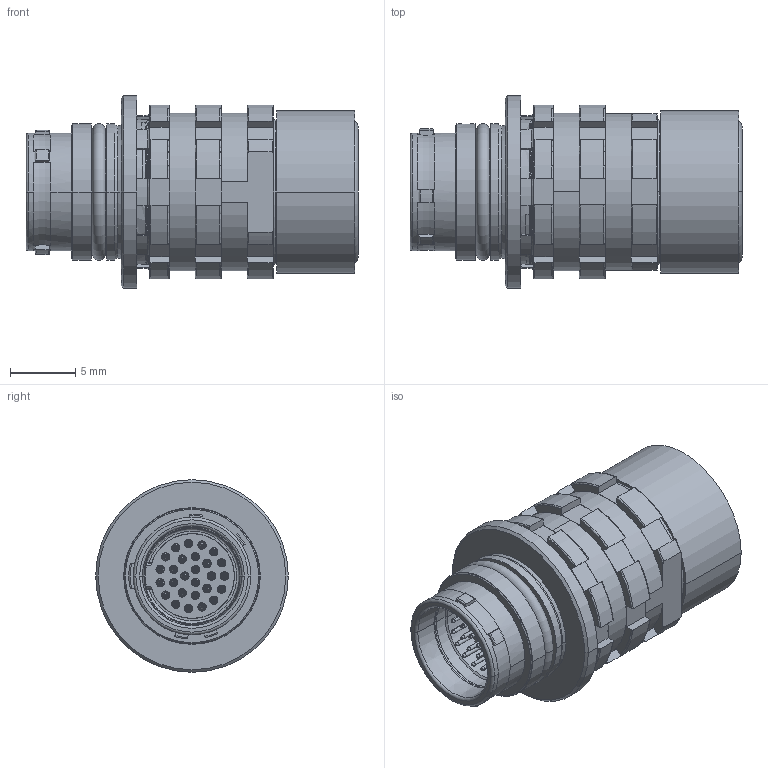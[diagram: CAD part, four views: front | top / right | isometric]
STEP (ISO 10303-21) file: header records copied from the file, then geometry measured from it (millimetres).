
FILE_DESCRIPTION((''),'2;1');
FILE_NAME('A11WAM-P27XBC0-0000_SW0002','2015-02-17T',('Skoehler'),(''),'PRO/ENGINEER BY PARAMETRIC TECHNOLOGY CORPORATION, 2013050','PRO/ENGINEER BY PARAMETRIC TECHNOLOGY CORPORATION, 2013050','');
FILE_SCHEMA(('AUTOMOTIVE_DESIGN { 1 0 10303 214 1 1 1 1 }'));
Products named in the file (1): A11WAM-P27XBC0-0000_SW0002
Bounding box: 25.5 x 14.8 x 14.8 mm (x, y, z)
Volume: 1499.1 mm3; surface area: 3847.5 mm2
Topology: 1 solids, 1 shells, 1639 faces, 4011 edges, 2337 vertices
Faces by surface type: cylinder 620, plane 362, cone 296, torus 244, bspline 63, sphere 54
Entity records: 75862 total; most frequent: CARTESIAN_POINT 25561, DIRECTION 8720, ORIENTED_EDGE 7806, EDGE_CURVE 3903, AXIS2_PLACEMENT_3D 3603, VERTEX_POINT 2337, CIRCLE 2027, EDGE_LOOP 1744
